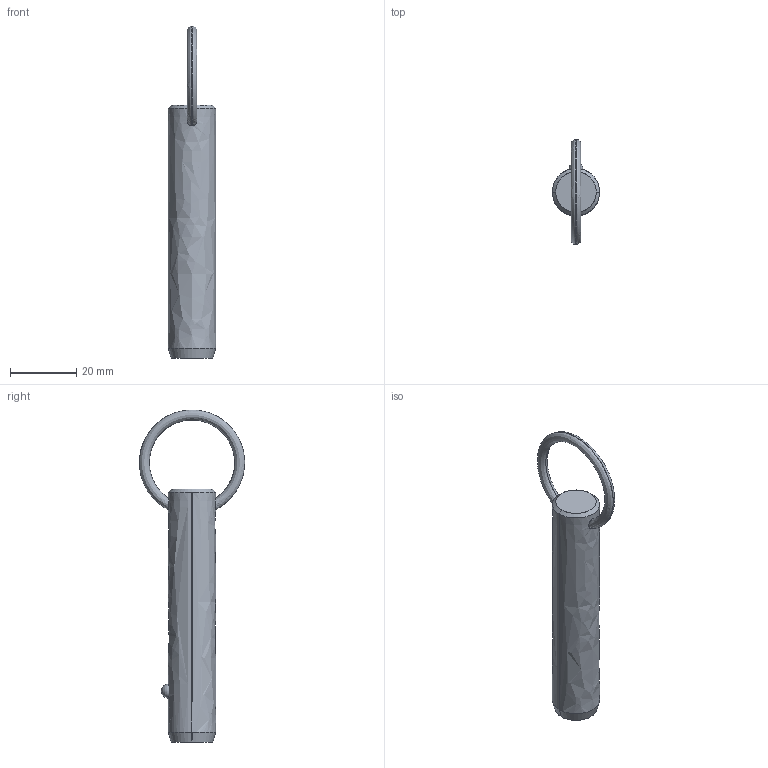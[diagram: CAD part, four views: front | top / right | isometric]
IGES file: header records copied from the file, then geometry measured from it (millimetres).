
Start section: SolidWorks IGES file using analytic representation for surfaces
Global section: file name: C:\Users\liam_\OneDrive\Documents\WORK\Work for WixRoyd\Job Files\J-00019 - Matt Davis CAD Checking\04. CAD Drawings\automotion20190605\P1250.2_v2\P1250.2_v2_20190729_IGES\P1250.056-200.igs; native system: SolidWorks 2017; preprocessor: SolidWorks 2017; author: liam_; date: 190729.231718; units: millimetre
Bounding box: 14.2 x 31.69 x 99.9 mm (x, y, z)
Surface area: 4360.7 mm2 (no closed solid volume)
Topology: 0 solids, 0 shells, 12 faces, 285 edges, 283 vertices
Faces by surface type: revolution 8, bspline 4
